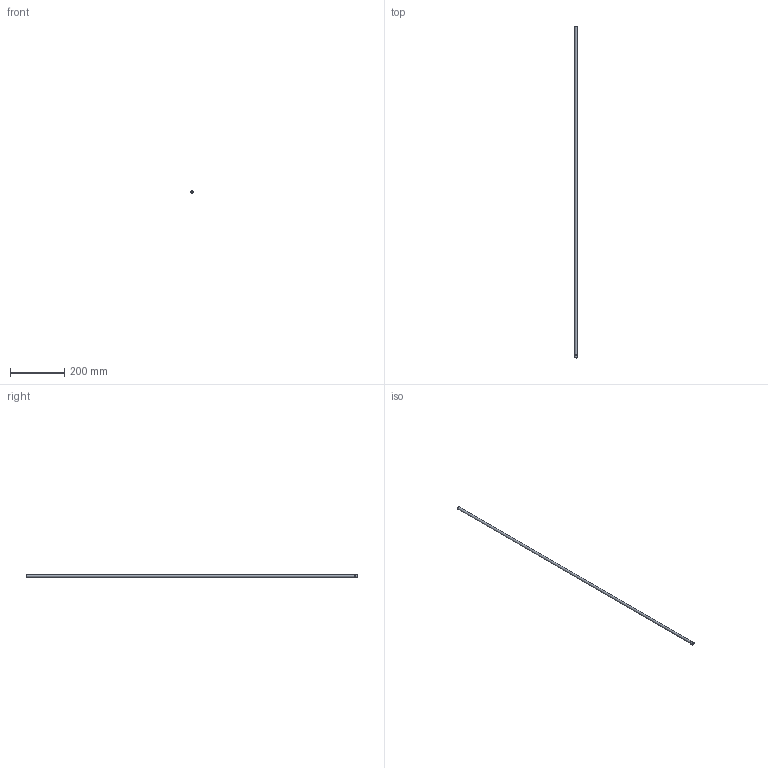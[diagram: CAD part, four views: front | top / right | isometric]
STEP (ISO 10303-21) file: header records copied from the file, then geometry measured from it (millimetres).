
FILE_DESCRIPTION(/* description */ (''),/* implementation_level */ '2;1');
FILE_NAME(/* name */ 'C:/Users/drich/Desktop/HF375T-48 v1.step',/* time_stamp */ '2019-12-30T13:36:17-06:00',/* author */ (''),/* organization */ (''),/* preprocessor_version */ 'ST-DEVELOPER v18',/* originating_system */ 'Autodesk Translation Framework v8.12.0.6',/* authorisation */ '');
FILE_SCHEMA (('AUTOMOTIVE_DESIGN { 1 0 10303 214 3 1 1 }'));
Length unit declared in the file: inch
Products named in the file (1): HF375T-48
Bounding box: 11.15 x 1219.2 x 11.15 mm (x, y, z)
Volume: 11193.8 mm3; surface area: 68712.1 mm2
Topology: 1 solids, 1 shells, 12 faces, 30 edges, 22 vertices
Faces by surface type: plane 4, cylinder 4, torus 3, cone 1
Full cylindrical faces by diameter (mm): 8.636 x1, 9.271 x1, 10.978 x1, 11.151 x1
Entity records: 426 total; most frequent: DIRECTION 81, CARTESIAN_POINT 65, ORIENTED_EDGE 60, AXIS2_PLACEMENT_3D 38, EDGE_CURVE 30, CIRCLE 25, VERTEX_POINT 22, EDGE_LOOP 16
